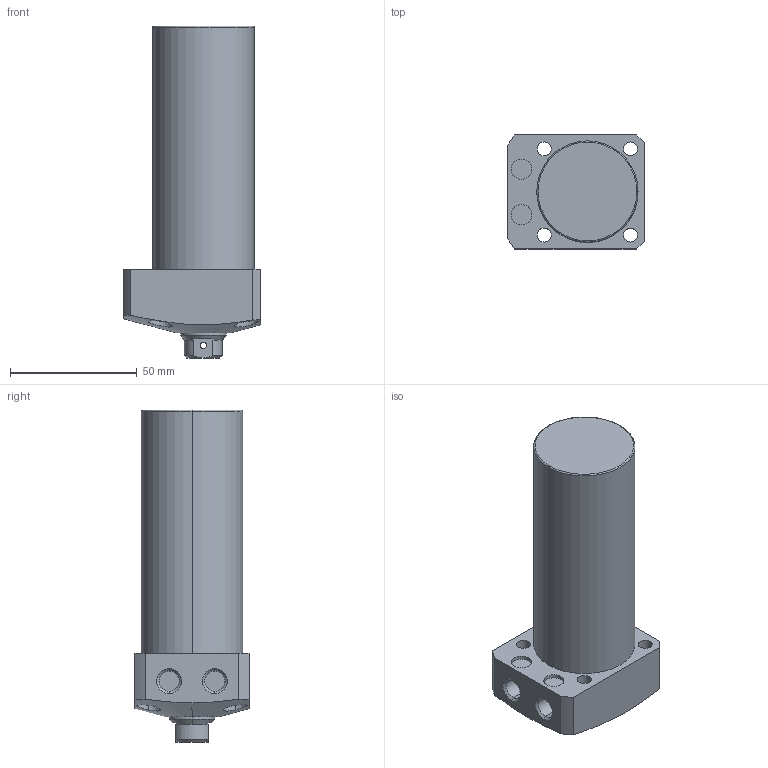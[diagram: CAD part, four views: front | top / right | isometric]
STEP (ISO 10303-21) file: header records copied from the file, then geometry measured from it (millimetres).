
FILE_DESCRIPTION (( 'STEP AP203' ), '1' );
FILE_NAME ('CLL-040CB-070.STEP', '2019-12-21T03:49:02', ( '' ), ( '' ), 'SwSTEP 2.0', 'SolidWorks 2015', '' );
FILE_SCHEMA (( 'CONFIG_CONTROL_DESIGN' ));
Length unit declared in the file: millimetre
Products named in the file (1): CLL-040CB-070
Bounding box: 54 x 45 x 131 mm (x, y, z)
Volume: 171044.5 mm3; surface area: 24196.7 mm2
Topology: 1 solids, 1 shells, 78 faces, 182 edges, 115 vertices
Faces by surface type: cylinder 39, plane 22, cone 15, torus 2
Entity records: 2721 total; most frequent: CARTESIAN_POINT 822, DIRECTION 394, ORIENTED_EDGE 360, EDGE_CURVE 180, AXIS2_PLACEMENT_3D 163, VERTEX_POINT 115, EDGE_LOOP 101, CIRCLE 84
